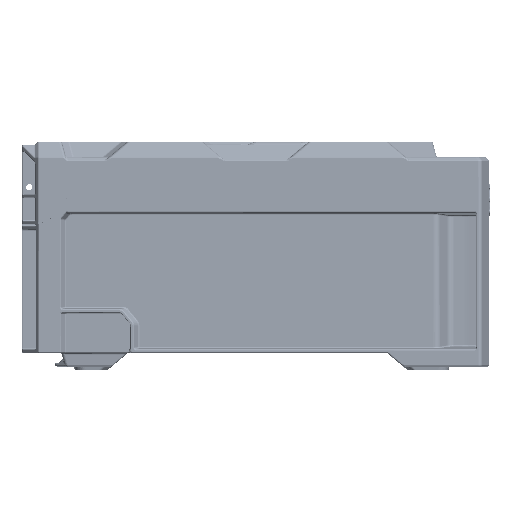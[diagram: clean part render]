
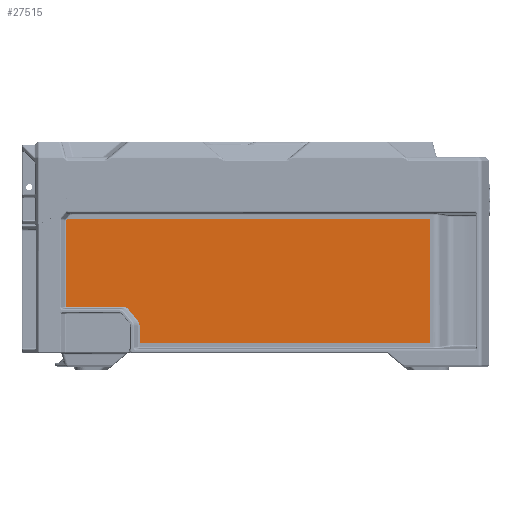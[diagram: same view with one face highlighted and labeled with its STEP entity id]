
A CAD part, left-side view. The second image highlights one B-rep face of the part: STEP entity #27515.
In plain terms, the highlighted planar face has unit normal (-1, 0, 0).
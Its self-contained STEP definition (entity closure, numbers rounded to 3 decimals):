
#7192=PLANE('',#228368);
#20253=ELLIPSE('',#228354,1.159,1.);
#20255=ELLIPSE('',#228358,5.098,4.5);
#20257=ELLIPSE('',#228361,6.931,6.);
#27515=ADVANCED_FACE('',(#45836),#7192,.T.);
#45836=FACE_OUTER_BOUND('',#59629,.T.);
#59629=EDGE_LOOP('',(#95874,#95875,#95876,#95877,#95878,#95879,#95880,#95881,
#95882,#95883,#95884,#95885,#95886));
#72285=CIRCLE('',#228366,0.5);
#72286=CIRCLE('',#228367,0.5);
#95874=ORIENTED_EDGE('',*,*,#173539,.T.);
#95875=ORIENTED_EDGE('',*,*,#173541,.T.);
#95876=ORIENTED_EDGE('',*,*,#173518,.T.);
#95877=ORIENTED_EDGE('',*,*,#173521,.F.);
#95878=ORIENTED_EDGE('',*,*,#173523,.F.);
#95879=ORIENTED_EDGE('',*,*,#173525,.F.);
#95880=ORIENTED_EDGE('',*,*,#173527,.F.);
#95881=ORIENTED_EDGE('',*,*,#173529,.F.);
#95882=ORIENTED_EDGE('',*,*,#173531,.F.);
#95883=ORIENTED_EDGE('',*,*,#173533,.F.);
#95884=ORIENTED_EDGE('',*,*,#173535,.F.);
#95885=ORIENTED_EDGE('',*,*,#173536,.T.);
#95886=ORIENTED_EDGE('',*,*,#173542,.T.);
#149929=VERTEX_POINT('',#357303);
#149930=VERTEX_POINT('',#357305);
#149931=VERTEX_POINT('',#357309);
#149932=VERTEX_POINT('',#357313);
#149933=VERTEX_POINT('',#357317);
#149934=VERTEX_POINT('',#357321);
#149935=VERTEX_POINT('',#357325);
#149936=VERTEX_POINT('',#357329);
#149937=VERTEX_POINT('',#357333);
#149938=VERTEX_POINT('',#357337);
#149939=VERTEX_POINT('',#357341);
#149940=VERTEX_POINT('',#357345);
#149941=VERTEX_POINT('',#357347);
#173518=EDGE_CURVE('',#149930,#149929,#201056,.T.);
#173521=EDGE_CURVE('',#149931,#149929,#201059,.T.);
#173523=EDGE_CURVE('',#149932,#149931,#20253,.T.);
#173525=EDGE_CURVE('',#149933,#149932,#201062,.T.);
#173527=EDGE_CURVE('',#149934,#149933,#201064,.T.);
#173529=EDGE_CURVE('',#149935,#149934,#20255,.T.);
#173531=EDGE_CURVE('',#149936,#149935,#201067,.T.);
#173533=EDGE_CURVE('',#149937,#149936,#20257,.T.);
#173535=EDGE_CURVE('',#149938,#149937,#201070,.T.);
#173536=EDGE_CURVE('',#149938,#149939,#201071,.T.);
#173539=EDGE_CURVE('',#149941,#149940,#201074,.T.);
#173541=EDGE_CURVE('',#149940,#149930,#72285,.T.);
#173542=EDGE_CURVE('',#149939,#149941,#72286,.T.);
#201056=LINE('',#357304,#213209);
#201059=LINE('',#357310,#213212);
#201062=LINE('',#357318,#213216);
#201064=LINE('',#357322,#213218);
#201067=LINE('',#357330,#213222);
#201070=LINE('',#357338,#213226);
#201071=LINE('',#357340,#213227);
#201074=LINE('',#357346,#213230);
#213209=VECTOR('',#260194,1.);
#213212=VECTOR('',#260199,1.);
#213216=VECTOR('',#260209,1.);
#213218=VECTOR('',#260213,1.);
#213222=VECTOR('',#260223,1.);
#213226=VECTOR('',#260233,1.);
#213227=VECTOR('',#260236,1.);
#213230=VECTOR('',#260241,1.);
#228354=AXIS2_PLACEMENT_3D('',#357314,#260203,#260204);
#228358=AXIS2_PLACEMENT_3D('',#357326,#260217,#260218);
#228361=AXIS2_PLACEMENT_3D('',#357334,#260227,#260228);
#228366=AXIS2_PLACEMENT_3D('',#357350,#260245,#260246);
#228367=AXIS2_PLACEMENT_3D('',#357351,#260247,#260248);
#228368=AXIS2_PLACEMENT_3D('',#357352,#260249,#260250);
#260194=DIRECTION('',(0.,1.,0.));
#260199=DIRECTION('',(0.,-0.64,0.768));
#260203=DIRECTION('',(1.,0.,0.));
#260204=DIRECTION('',(0.,0.986,0.165));
#260209=DIRECTION('',(0.,0.,1.));
#260213=DIRECTION('',(0.,1.,0.));
#260217=DIRECTION('',(-1.,0.,0.));
#260218=DIRECTION('',(0.,-0.983,0.181));
#260223=DIRECTION('',(0.,0.643,0.766));
#260227=DIRECTION('',(-1.,0.,0.));
#260228=DIRECTION('',(0.,0.998,-0.056));
#260233=DIRECTION('',(0.,0.,1.));
#260236=DIRECTION('',(0.,-1.,0.));
#260241=DIRECTION('',(0.,0.,1.));
#260245=DIRECTION('',(-1.,0.,0.));
#260246=DIRECTION('',(0.,0.,-1.));
#260247=DIRECTION('',(-1.,0.,0.));
#260248=DIRECTION('',(0.,0.,-1.));
#260249=DIRECTION('',(-1.,0.,0.));
#260250=DIRECTION('',(0.,0.,-1.));
#357303=CARTESIAN_POINT('',(-242.4,-28.979,-13.75));
#357304=CARTESIAN_POINT('',(-242.4,0.,-13.75));
#357305=CARTESIAN_POINT('',(-242.4,-257.593,-13.75));
#357309=CARTESIAN_POINT('',(-242.4,-28.301,-14.563));
#357310=CARTESIAN_POINT('',(-242.4,-23.857,-19.893));
#357313=CARTESIAN_POINT('',(-242.4,-28.093,-15.13));
#357314=CARTESIAN_POINT('',(-242.4,-29.247,-15.178));
#357317=CARTESIAN_POINT('',(-242.4,-28.093,-69.561));
#357318=CARTESIAN_POINT('',(-242.4,-28.093,0.));
#357321=CARTESIAN_POINT('',(-242.4,-63.491,-69.561));
#357322=CARTESIAN_POINT('',(-242.4,0.,-69.561));
#357325=CARTESIAN_POINT('',(-242.4,-67.383,-71.274));
#357326=CARTESIAN_POINT('',(-242.4,-63.265,-74.082));
#357329=CARTESIAN_POINT('',(-242.4,-73.128,-78.121));
#357330=CARTESIAN_POINT('',(-242.4,-67.481,-71.391));
#357333=CARTESIAN_POINT('',(-242.4,-74.43,-81.605));
#357334=CARTESIAN_POINT('',(-242.4,-67.501,-81.703));
#357337=CARTESIAN_POINT('',(-242.4,-74.43,-92.75));
#357338=CARTESIAN_POINT('',(-242.4,-74.43,0.));
#357340=CARTESIAN_POINT('',(-242.4,0.,-92.75));
#357341=CARTESIAN_POINT('',(-242.4,-257.593,-92.75));
#357345=CARTESIAN_POINT('',(-242.4,-258.093,-14.25));
#357346=CARTESIAN_POINT('',(-242.4,-258.093,0.));
#357347=CARTESIAN_POINT('',(-242.4,-258.093,-92.25));
#357350=CARTESIAN_POINT('',(-242.4,-257.593,-14.25));
#357351=CARTESIAN_POINT('',(-242.4,-257.593,-92.25));
#357352=CARTESIAN_POINT('',(-242.4,0.,0.));
